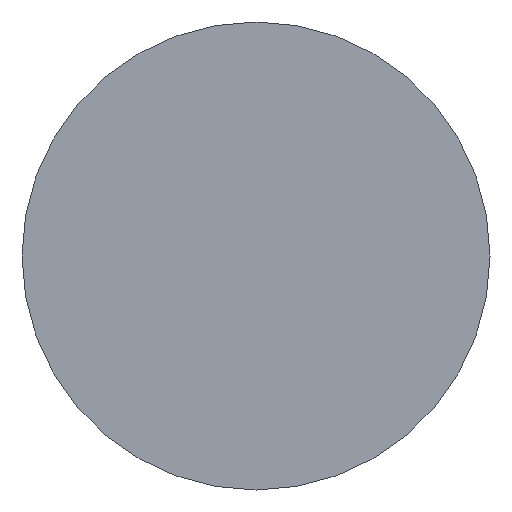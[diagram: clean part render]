
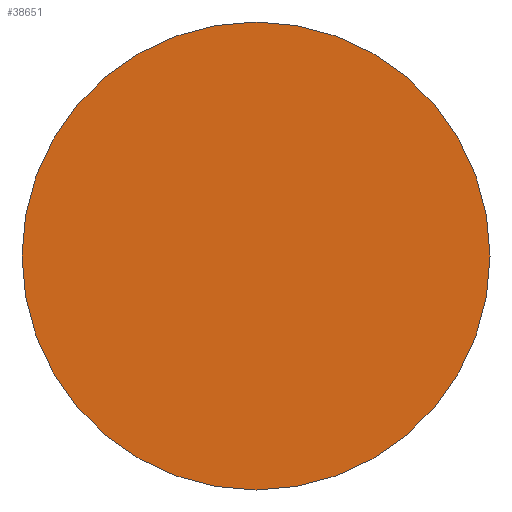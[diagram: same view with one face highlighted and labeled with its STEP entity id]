
A CAD part, front view. The second image highlights one B-rep face of the part: STEP entity #38651.
In plain terms, the highlighted planar face has unit normal (0, -1, 0).
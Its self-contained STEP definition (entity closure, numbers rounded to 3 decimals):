
#436=PLANE('',#40784);
#13124=FACE_OUTER_BOUND('',#15127,.T.);
#15127=EDGE_LOOP('',(#27256));
#17153=CIRCLE('',#40782,77.5);
#17385=VERTEX_POINT('',#53327);
#21304=EDGE_CURVE('',#17385,#17385,#17153,.T.);
#27256=ORIENTED_EDGE('',*,*,#21304,.F.);
#38651=ADVANCED_FACE('',(#13124),#436,.F.);
#40782=AXIS2_PLACEMENT_3D('',#53329,#43055,#43056);
#40784=AXIS2_PLACEMENT_3D('',#53331,#43059,#43060);
#43055=DIRECTION('center_axis',(0.,1.,0.));
#43056=DIRECTION('ref_axis',(-1.,0.,0.));
#43059=DIRECTION('center_axis',(0.,1.,0.));
#43060=DIRECTION('ref_axis',(0.,0.,1.));
#53327=CARTESIAN_POINT('',(77.5,0.,0.));
#53329=CARTESIAN_POINT('Origin',(0.,0.,0.));
#53331=CARTESIAN_POINT('Origin',(0.,0.,0.));
